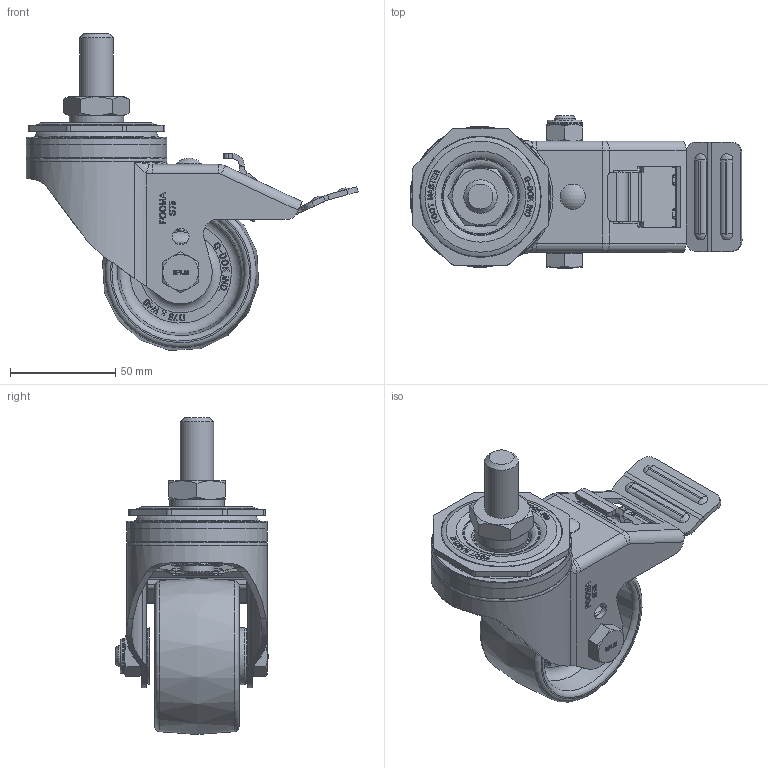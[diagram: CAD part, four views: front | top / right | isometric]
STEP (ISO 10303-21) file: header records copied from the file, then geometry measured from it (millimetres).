
FILE_DESCRIPTION(/* description */ (''),/* implementation_level */ '2;1');
FILE_NAME(/* name */ '\\192.168.10.38\지덕공유\1.기술연구소\2.연구개발 완료\완료_98.스테인레스캐스터 개발건_2023.10.26\제품설계\3D\홈페이지용\NYP\STP\SPLM-75-BSS-NYP.stp',/* time_stamp */ '2025-07-17T15:43:43+09:00',/* author */ ('admin'),/* organization */ ('지덕산업'),/* preprocessor_version */ 'ST-DEVELOPER v18.1',/* originating_system */ 'Autodesk Inventor 2021',/* authorisation */ '');
FILE_SCHEMA (('CONFIG_CONTROL_DESIGN'));
Products named in the file (1): SPLM-75-BSS-NYP
Bounding box: 157.79 x 72.3 x 150.63 mm (x, y, z)
Volume: 240797.5 mm3; surface area: 82608.6 mm2
Topology: 1 solids, 1 shells, 1727 faces, 4597 edges, 2966 vertices
Faces by surface type: plane 895, bspline 474, cylinder 253, cone 66, torus 38, sphere 1
Full cylindrical faces by diameter (mm): 6 x1, 7 x3, 8 x2, 9 x1, 10 x2, 11 x1, 12 x1, 15.875 x1, 16 x2, 16.5 x1, 25.8 x1, 54 x1, 67 x1
Entity records: 55330 total; most frequent: CARTESIAN_POINT 15451, ORIENTED_EDGE 9186, DIRECTION 6693, EDGE_CURVE 4593, VERTEX_POINT 2966, LINE 2795, VECTOR 2795, AXIS2_PLACEMENT_3D 1949
